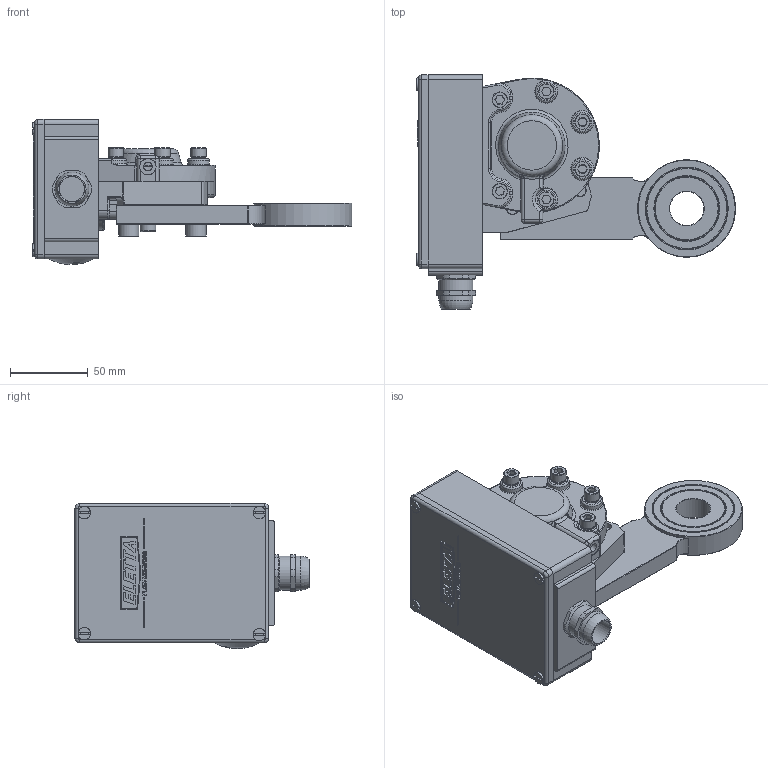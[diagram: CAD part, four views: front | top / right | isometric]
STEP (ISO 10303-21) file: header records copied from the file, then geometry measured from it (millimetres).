
FILE_DESCRIPTION(/* description */ ('Alibre Inc.'),/* implementation_level */ '2;1');
FILE_NAME(/* name */ 'export0',/* time_stamp */ '2012-10-19T13:16:43+02:00',/* author */ (''),/* organization */ (''),/* preprocessor_version */ 'ST-DEVELOPER v14',/* originating_system */ 'Alibre',/* authorisation */ '');
FILE_SCHEMA (('CONFIG_CONTROL_DESIGN'));
Length unit declared in the file: centimetre
Products named in the file (12): ID_1; ID_2; ID_3; ID_4; ID_5; ID_6; ID_7; ID_8
Bounding box: 205.92 x 151 x 93.66 mm (x, y, z)
Volume: 350542.3 mm3; surface area: 161040.7 mm2
Topology: 21 solids, 21 shells, 1087 faces, 2574 edges, 1597 vertices
Faces by surface type: plane 530, cylinder 233, bspline 162, cone 84, torus 70, sphere 8
Full cylindrical faces by diameter (mm): 3.9 x2, 5 x22, 5.5 x1, 5.541 x2, 6 x14, 6.038 x2, 6.5 x6, 8 x9, 8.5 x2, 9.6 x6, 10 x11, 10.5 x1, 12 x3, 13 x2, 14 x3, 16 x1, 17.966 x1, 19.5 x1, 22 x3, 22.5 x4, 29 x1, 31 x1, 41 x2, 42 x2, 52 x2, 53 x2, 63 x1
Entity records: 34574 total; most frequent: CARTESIAN_POINT 14248, ORIENTED_EDGE 3984, DIRECTION 3180, EDGE_CURVE 1992, VERTEX_POINT 1335, AXIS2_PLACEMENT_3D 1295, EDGE_LOOP 1167, FACE_BOUND 1167
